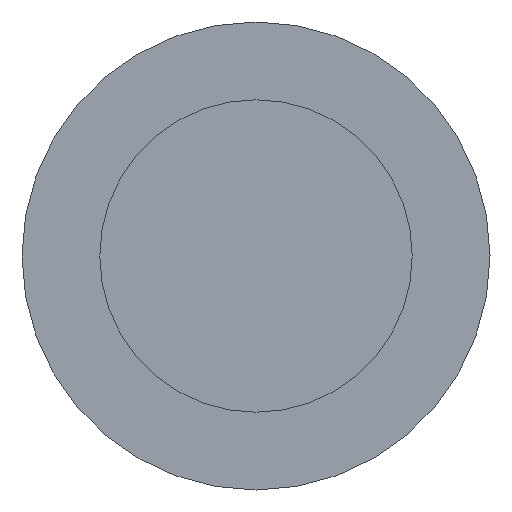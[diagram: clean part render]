
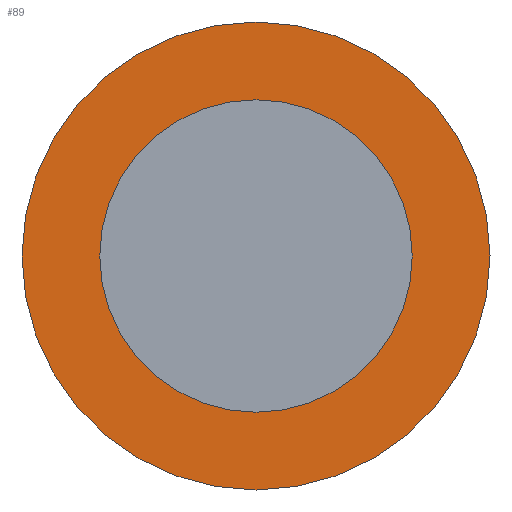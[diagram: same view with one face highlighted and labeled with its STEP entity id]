
A CAD part, left-side view. The second image highlights one B-rep face of the part: STEP entity #89.
In plain terms, the highlighted planar face has unit normal (-1, 0, 0).
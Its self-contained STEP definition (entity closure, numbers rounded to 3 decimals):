
#16=FACE_BOUND('',#34,.T.);
#19=PLANE('',#114);
#25=FACE_OUTER_BOUND('',#33,.T.);
#33=EDGE_LOOP('',(#75));
#34=EDGE_LOOP('',(#76));
#43=CIRCLE('',#107,2.995);
#47=CIRCLE('',#115,2.);
#49=VERTEX_POINT('',#152);
#53=VERTEX_POINT('',#166);
#55=EDGE_CURVE('',#49,#49,#43,.F.);
#61=EDGE_CURVE('',#53,#53,#47,.T.);
#75=ORIENTED_EDGE('',*,*,#55,.F.);
#76=ORIENTED_EDGE('',*,*,#61,.T.);
#89=ADVANCED_FACE('',(#25,#16),#19,.T.);
#107=AXIS2_PLACEMENT_3D('',#153,#123,#124);
#114=AXIS2_PLACEMENT_3D('',#165,#139,#140);
#115=AXIS2_PLACEMENT_3D('',#167,#141,#142);
#123=DIRECTION('center_axis',(-1.,0.,0.));
#124=DIRECTION('ref_axis',(0.,0.,1.));
#139=DIRECTION('center_axis',(-1.,0.,0.));
#140=DIRECTION('ref_axis',(0.,0.,1.));
#141=DIRECTION('center_axis',(1.,0.,0.));
#142=DIRECTION('ref_axis',(0.,0.,-1.));
#152=CARTESIAN_POINT('',(-5.,0.,-2.995));
#153=CARTESIAN_POINT('Origin',(-5.,0.,0.));
#165=CARTESIAN_POINT('Origin',(-5.,0.,0.));
#166=CARTESIAN_POINT('',(-5.,0.,-2.));
#167=CARTESIAN_POINT('Origin',(-5.,0.,0.));
